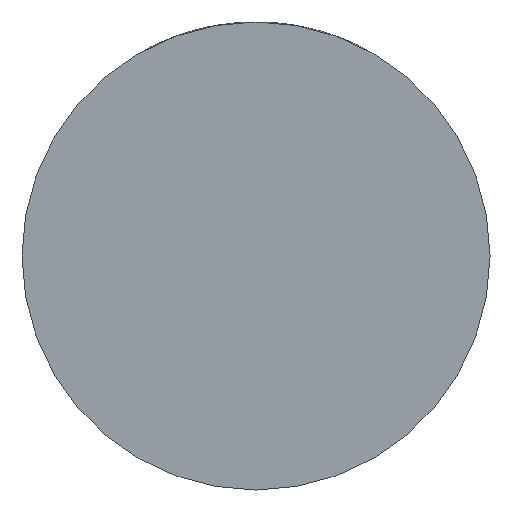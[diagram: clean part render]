
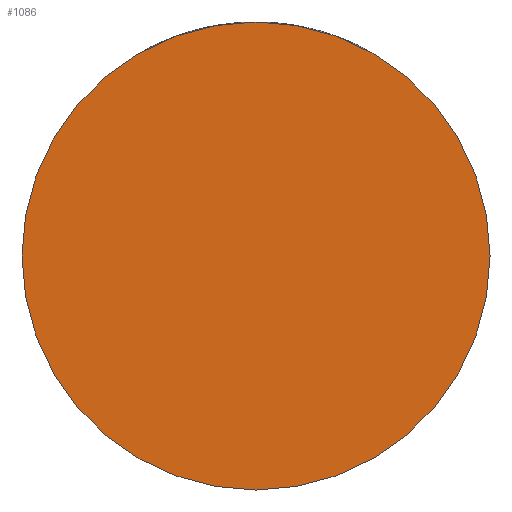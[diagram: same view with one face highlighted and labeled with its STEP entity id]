
A CAD part, front view. The second image highlights one B-rep face of the part: STEP entity #1086.
In plain terms, the highlighted planar face has unit normal (0, -1, 0).
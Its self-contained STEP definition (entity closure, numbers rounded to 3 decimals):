
#678 = CIRCLE ( 'NONE', #1274, 49. ) ;
#707 = DIRECTION ( 'NONE',  ( 1., 0., 0. ) ) ;
#914 = ORIENTED_EDGE ( 'NONE', *, *, #1990, .T. ) ;
#977 = FACE_OUTER_BOUND ( 'NONE', #2604, .T. ) ;
#1086 = ADVANCED_FACE ( 'NONE', ( #977 ), #3785, .T. ) ;
#1274 = AXIS2_PLACEMENT_3D ( 'NONE', #3529, #3874, #707 ) ;
#1317 = VERTEX_POINT ( 'NONE', #4534 ) ;
#1471 = AXIS2_PLACEMENT_3D ( 'NONE', #2672, #2692, #2383 ) ;
#1757 = CARTESIAN_POINT ( 'NONE',  ( 0., -42., 0. ) ) ;
#1990 = EDGE_CURVE ( 'NONE', #2918, #1317, #678, .T. ) ;
#2083 = DIRECTION ( 'NONE',  ( 0., -1., 0. ) ) ;
#2271 = CARTESIAN_POINT ( 'NONE',  ( -49., -42., 0. ) ) ;
#2331 = CIRCLE ( 'NONE', #2546, 49. ) ;
#2383 = DIRECTION ( 'NONE',  ( 1., 0., 0. ) ) ;
#2472 = ORIENTED_EDGE ( 'NONE', *, *, #3782, .T. ) ;
#2546 = AXIS2_PLACEMENT_3D ( 'NONE', #1757, #2083, #3872 ) ;
#2604 = EDGE_LOOP ( 'NONE', ( #914, #2472 ) ) ;
#2672 = CARTESIAN_POINT ( 'NONE',  ( 0., -42., 0. ) ) ;
#2692 = DIRECTION ( 'NONE',  ( 0., -1., 0. ) ) ;
#2918 = VERTEX_POINT ( 'NONE', #2271 ) ;
#3529 = CARTESIAN_POINT ( 'NONE',  ( 0., -42., 0. ) ) ;
#3782 = EDGE_CURVE ( 'NONE', #1317, #2918, #2331, .T. ) ;
#3785 = PLANE ( 'NONE',  #1471 ) ;
#3872 = DIRECTION ( 'NONE',  ( 1., 0., 0. ) ) ;
#3874 = DIRECTION ( 'NONE',  ( 0., -1., 0. ) ) ;
#4534 = CARTESIAN_POINT ( 'NONE',  ( 49., -42., 0. ) ) ;
